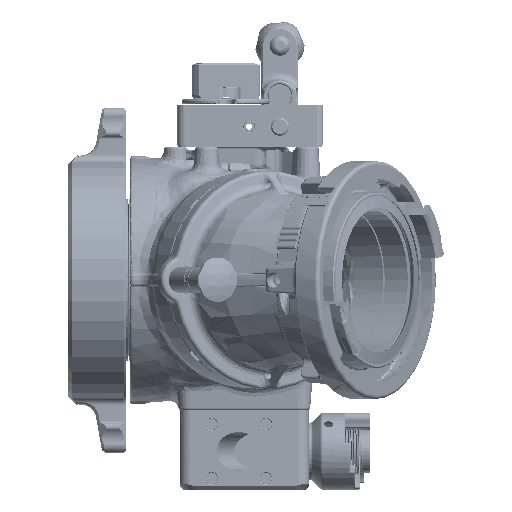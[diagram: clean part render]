
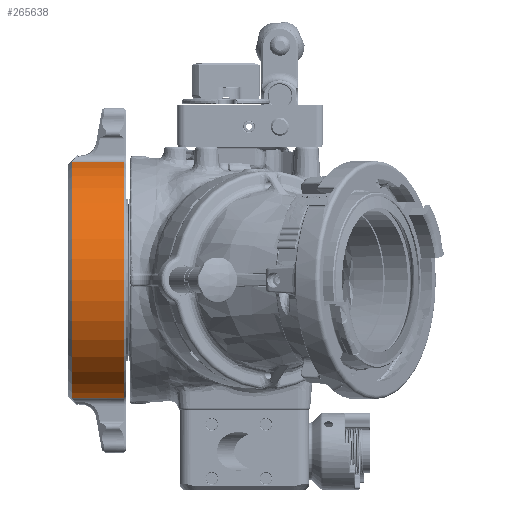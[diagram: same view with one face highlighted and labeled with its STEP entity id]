
A CAD part, front view. The second image highlights one B-rep face of the part: STEP entity #265638.
In plain terms, the highlighted cylindrical face has radius 98.425 mm (diameter 196.85 mm), a partial arc.
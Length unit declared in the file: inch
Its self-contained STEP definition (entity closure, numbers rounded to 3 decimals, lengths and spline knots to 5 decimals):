
#7119 = FACE_OUTER_BOUND ( 'NONE', #290558, .T. ) ;
#37181 = CIRCLE ( 'NONE', #278964, 3.875 ) ;
#50650 = VERTEX_POINT ( 'NONE', #252834 ) ;
#69095 = ORIENTED_EDGE ( 'NONE', *, *, #210471, .F. ) ;
#71265 = DIRECTION ( 'NONE',  ( -1., 0., 0. ) ) ;
#80938 = VERTEX_POINT ( 'NONE', #105888 ) ;
#81716 = EDGE_CURVE ( 'NONE', #50650, #290486, #290950, .T. ) ;
#85422 = ORIENTED_EDGE ( 'NONE', *, *, #125456, .T. ) ;
#86744 = DIRECTION ( 'NONE',  ( -1., 0., 0. ) ) ;
#101514 = ORIENTED_EDGE ( 'NONE', *, *, #155891, .T. ) ;
#102131 = DIRECTION ( 'NONE',  ( 0., 0., -1. ) ) ;
#103135 = AXIS2_PLACEMENT_3D ( 'NONE', #270312, #320713, #102131 ) ;
#105888 = CARTESIAN_POINT ( 'NONE',  ( -3.3075, -0.68106, -3.81468 ) ) ;
#122887 = VERTEX_POINT ( 'NONE', #272537 ) ;
#125456 = EDGE_CURVE ( 'NONE', #122887, #80938, #284955, .T. ) ;
#126988 = ORIENTED_EDGE ( 'NONE', *, *, #81716, .F. ) ;
#132042 = CIRCLE ( 'NONE', #183852, 3.875 ) ;
#134305 = CARTESIAN_POINT ( 'NONE',  ( -3.3075, -0.68106, 3.81468 ) ) ;
#155891 = EDGE_CURVE ( 'NONE', #80938, #290486, #132042, .T. ) ;
#174847 = DIRECTION ( 'NONE',  ( 0., 0., -1. ) ) ;
#183852 = AXIS2_PLACEMENT_3D ( 'NONE', #211014, #86744, #261310 ) ;
#195633 = CARTESIAN_POINT ( 'NONE',  ( -4.983, 0., 0. ) ) ;
#198381 = CYLINDRICAL_SURFACE ( 'NONE', #103135, 3.875 ) ;
#201039 = DIRECTION ( 'NONE',  ( 1., 0., 0. ) ) ;
#210471 = EDGE_CURVE ( 'NONE', #122887, #50650, #37181, .T. ) ;
#211014 = CARTESIAN_POINT ( 'NONE',  ( -3.3075, 0., 0. ) ) ;
#216527 = VECTOR ( 'NONE', #201039, 39.37008 ) ;
#224055 = CARTESIAN_POINT ( 'NONE',  ( -5.158, -0.68106, 3.81468 ) ) ;
#234092 = VECTOR ( 'NONE', #308571, 39.37008 ) ;
#252834 = CARTESIAN_POINT ( 'NONE',  ( -4.983, -0.68106, 3.81468 ) ) ;
#261310 = DIRECTION ( 'NONE',  ( 0., 0., 1. ) ) ;
#265638 = ADVANCED_FACE ( 'NONE', ( #7119 ), #198381, .T. ) ;
#270312 = CARTESIAN_POINT ( 'NONE',  ( -5.158, 0., 0. ) ) ;
#272537 = CARTESIAN_POINT ( 'NONE',  ( -4.983, -0.68106, -3.81468 ) ) ;
#278964 = AXIS2_PLACEMENT_3D ( 'NONE', #195633, #71265, #174847 ) ;
#284955 = LINE ( 'NONE', #310757, #234092 ) ;
#290486 = VERTEX_POINT ( 'NONE', #134305 ) ;
#290558 = EDGE_LOOP ( 'NONE', ( #85422, #101514, #126988, #69095 ) ) ;
#290950 = LINE ( 'NONE', #224055, #216527 ) ;
#308571 = DIRECTION ( 'NONE',  ( 1., 0., 0. ) ) ;
#310757 = CARTESIAN_POINT ( 'NONE',  ( -5.158, -0.68106, -3.81468 ) ) ;
#320713 = DIRECTION ( 'NONE',  ( 1., 0., 0. ) ) ;
